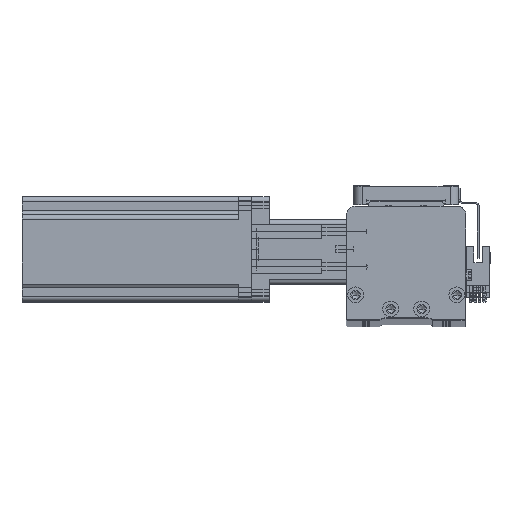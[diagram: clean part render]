
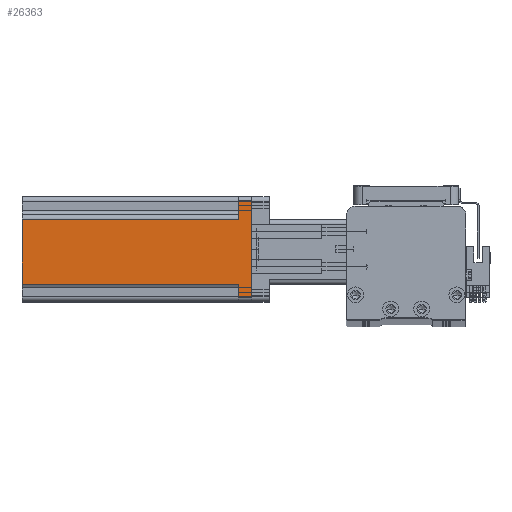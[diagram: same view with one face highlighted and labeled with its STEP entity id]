
A CAD part, top view. The second image highlights one B-rep face of the part: STEP entity #26363.
In plain terms, the highlighted planar face has unit normal (0, 0, 1) as drawn and (-1, 0, 0) by its records, which use the part's own axes.
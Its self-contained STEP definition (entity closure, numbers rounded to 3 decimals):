
#482 = CARTESIAN_POINT ( 'NONE',  ( -30., -27., 7.5 ) ) ;
#1159 = EDGE_CURVE ( 'NONE', #14111, #41205, #22950, .T. ) ;
#1676 = CARTESIAN_POINT ( 'NONE',  ( -30., 20., 7.5 ) ) ;
#1856 = LINE ( 'NONE', #17532, #30920 ) ;
#2222 = VECTOR ( 'NONE', #40693, 1000. ) ;
#2765 = ORIENTED_EDGE ( 'NONE', *, *, #10986, .T. ) ;
#5052 = CARTESIAN_POINT ( 'NONE',  ( -30., -30., 0. ) ) ;
#5504 = VERTEX_POINT ( 'NONE', #33362 ) ;
#5628 = VERTEX_POINT ( 'NONE', #22075 ) ;
#7345 = CARTESIAN_POINT ( 'NONE',  ( -30., -27., 0. ) ) ;
#8101 = CARTESIAN_POINT ( 'NONE',  ( -30., 27., 7.5 ) ) ;
#8117 = VECTOR ( 'NONE', #17950, 1000. ) ;
#9357 = LINE ( 'NONE', #45717, #8117 ) ;
#10064 = AXIS2_PLACEMENT_3D ( 'NONE', #37247, #13519, #41235 ) ;
#10959 = ORIENTED_EDGE ( 'NONE', *, *, #50848, .T. ) ;
#10986 = EDGE_CURVE ( 'NONE', #41205, #19198, #24470, .T. ) ;
#13519 = DIRECTION ( 'NONE',  ( 1., 0., 0. ) ) ;
#13671 = DIRECTION ( 'NONE',  ( 0., 0., 1. ) ) ;
#14111 = VERTEX_POINT ( 'NONE', #8101 ) ;
#17532 = CARTESIAN_POINT ( 'NONE',  ( -30., -30., 7.5 ) ) ;
#17542 = DIRECTION ( 'NONE',  ( 0., 0., 1. ) ) ;
#17586 = ORIENTED_EDGE ( 'NONE', *, *, #1159, .T. ) ;
#17950 = DIRECTION ( 'NONE',  ( 0., 0., 1. ) ) ;
#18184 = CARTESIAN_POINT ( 'NONE',  ( -30., 27., 130.7 ) ) ;
#18527 = DIRECTION ( 'NONE',  ( 0., 0., -1. ) ) ;
#18814 = CARTESIAN_POINT ( 'NONE',  ( -30., 27., 0. ) ) ;
#19198 = VERTEX_POINT ( 'NONE', #7345 ) ;
#20052 = FACE_OUTER_BOUND ( 'NONE', #34853, .T. ) ;
#21022 = ORIENTED_EDGE ( 'NONE', *, *, #33117, .F. ) ;
#21146 = VECTOR ( 'NONE', #38602, 1000. ) ;
#21270 = PLANE ( 'NONE',  #10064 ) ;
#21422 = VERTEX_POINT ( 'NONE', #47703 ) ;
#22075 = CARTESIAN_POINT ( 'NONE',  ( -30., -17., 130.7 ) ) ;
#22502 = LINE ( 'NONE', #42350, #42384 ) ;
#22950 = LINE ( 'NONE', #18184, #47166 ) ;
#23026 = VERTEX_POINT ( 'NONE', #49765 ) ;
#23932 = VECTOR ( 'NONE', #13671, 1000. ) ;
#24407 = VECTOR ( 'NONE', #17542, 1000. ) ;
#24470 = LINE ( 'NONE', #5052, #2222 ) ;
#26363 = ADVANCED_FACE ( 'NONE', ( #20052 ), #21270, .F. ) ;
#30594 = CARTESIAN_POINT ( 'NONE',  ( -30., 30., 7.5 ) ) ;
#30920 = VECTOR ( 'NONE', #37294, 1000. ) ;
#32422 = ORIENTED_EDGE ( 'NONE', *, *, #42893, .T. ) ;
#33117 = EDGE_CURVE ( 'NONE', #21422, #5504, #34955, .T. ) ;
#33264 = EDGE_CURVE ( 'NONE', #5504, #5628, #22502, .T. ) ;
#33362 = CARTESIAN_POINT ( 'NONE',  ( -30., 20., 130.7 ) ) ;
#33553 = LINE ( 'NONE', #30594, #21146 ) ;
#34778 = ORIENTED_EDGE ( 'NONE', *, *, #33264, .F. ) ;
#34853 = EDGE_LOOP ( 'NONE', ( #50451, #10959, #34778, #21022, #32422, #17586, #2765, #44895 ) ) ;
#34955 = LINE ( 'NONE', #1676, #24407 ) ;
#37247 = CARTESIAN_POINT ( 'NONE',  ( -30., -30., 130.7 ) ) ;
#37294 = DIRECTION ( 'NONE',  ( 0., -1., 0. ) ) ;
#38602 = DIRECTION ( 'NONE',  ( 0., 1., 0. ) ) ;
#40693 = DIRECTION ( 'NONE',  ( 0., -1., 0. ) ) ;
#41205 = VERTEX_POINT ( 'NONE', #18814 ) ;
#41235 = DIRECTION ( 'NONE',  ( 0., 0., -1. ) ) ;
#41412 = CARTESIAN_POINT ( 'NONE',  ( -30., -17., 130.7 ) ) ;
#42350 = CARTESIAN_POINT ( 'NONE',  ( -30., -30., 130.7 ) ) ;
#42384 = VECTOR ( 'NONE', #46342, 1000. ) ;
#42893 = EDGE_CURVE ( 'NONE', #21422, #14111, #33553, .T. ) ;
#43806 = EDGE_CURVE ( 'NONE', #23026, #47241, #1856, .T. ) ;
#44895 = ORIENTED_EDGE ( 'NONE', *, *, #45314, .T. ) ;
#45040 = LINE ( 'NONE', #41412, #23932 ) ;
#45314 = EDGE_CURVE ( 'NONE', #19198, #47241, #9357, .T. ) ;
#45717 = CARTESIAN_POINT ( 'NONE',  ( -30., -27., 130.7 ) ) ;
#46342 = DIRECTION ( 'NONE',  ( 0., -1., 0. ) ) ;
#47166 = VECTOR ( 'NONE', #18527, 1000. ) ;
#47241 = VERTEX_POINT ( 'NONE', #482 ) ;
#47703 = CARTESIAN_POINT ( 'NONE',  ( -30., 20., 7.5 ) ) ;
#49765 = CARTESIAN_POINT ( 'NONE',  ( -30., -17., 7.5 ) ) ;
#50451 = ORIENTED_EDGE ( 'NONE', *, *, #43806, .F. ) ;
#50848 = EDGE_CURVE ( 'NONE', #23026, #5628, #45040, .T. ) ;
